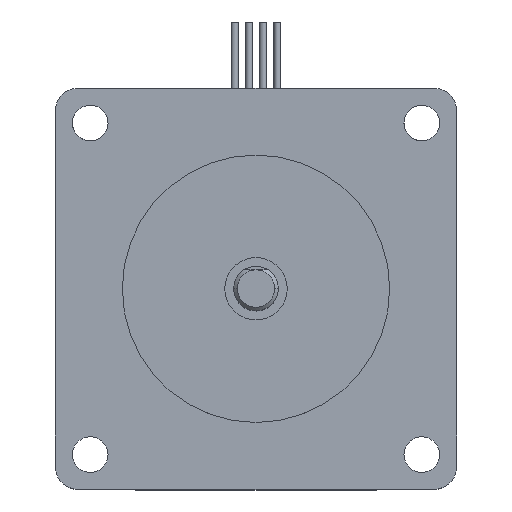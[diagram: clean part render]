
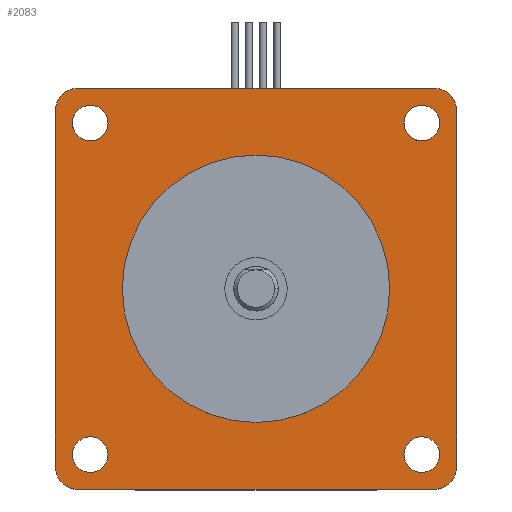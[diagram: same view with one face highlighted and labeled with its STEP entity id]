
A CAD part, top view. The second image highlights one B-rep face of the part: STEP entity #2083.
In plain terms, the highlighted planar face has unit normal (0, 0, 1).
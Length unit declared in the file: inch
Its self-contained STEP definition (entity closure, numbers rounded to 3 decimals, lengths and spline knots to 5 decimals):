
#99=CARTESIAN_POINT('',(-1.03,0.93,2.17));
#100=VERTEX_POINT('',#99);
#116=CARTESIAN_POINT('',(-0.83,0.93,2.17));
#117=VERTEX_POINT('',#116);
#124=CARTESIAN_POINT('',(-0.93,0.93,2.17));
#125=DIRECTION('',(0.0,0.0,-1.0));
#126=DIRECTION('',(-1.0,0.0,0.0));
#127=AXIS2_PLACEMENT_3D('',#124,#125,#126);
#128=CIRCLE('',#127,0.1);
#129=EDGE_CURVE('',#100,#117,#128,.T.);
#141=CARTESIAN_POINT('',(0.93,1.03,2.17));
#142=VERTEX_POINT('',#141);
#158=CARTESIAN_POINT('',(0.93,0.83,2.17));
#159=VERTEX_POINT('',#158);
#166=CARTESIAN_POINT('',(0.93,0.93,2.17));
#167=DIRECTION('',(0.0,0.0,-1.0));
#168=DIRECTION('',(0.0,1.0,0.0));
#169=AXIS2_PLACEMENT_3D('',#166,#167,#168);
#170=CIRCLE('',#169,0.1);
#171=EDGE_CURVE('',#142,#159,#170,.T.);
#183=CARTESIAN_POINT('',(-0.93,-1.03,2.17));
#184=VERTEX_POINT('',#183);
#200=CARTESIAN_POINT('',(-0.93,-0.83,2.17));
#201=VERTEX_POINT('',#200);
#208=CARTESIAN_POINT('',(-0.93,-0.93,2.17));
#209=DIRECTION('',(0.0,0.0,-1.0));
#210=DIRECTION('',(0.0,-1.0,0.0));
#211=AXIS2_PLACEMENT_3D('',#208,#209,#210);
#212=CIRCLE('',#211,0.1);
#213=EDGE_CURVE('',#184,#201,#212,.T.);
#225=CARTESIAN_POINT('',(1.03,-0.93,2.17));
#226=VERTEX_POINT('',#225);
#242=CARTESIAN_POINT('',(0.83,-0.93,2.17));
#243=VERTEX_POINT('',#242);
#250=CARTESIAN_POINT('',(0.93,-0.93,2.17));
#251=DIRECTION('',(0.0,0.0,-1.0));
#252=DIRECTION('',(1.0,0.0,0.0));
#253=AXIS2_PLACEMENT_3D('',#250,#251,#252);
#254=CIRCLE('',#253,0.1);
#255=EDGE_CURVE('',#226,#243,#254,.T.);
#265=CARTESIAN_POINT('',(-0.75,0.,2.17));
#266=VERTEX_POINT('',#265);
#275=CARTESIAN_POINT('',(0.75,0.,2.17));
#276=VERTEX_POINT('',#275);
#277=CARTESIAN_POINT('',(0.0,0.0,2.17));
#278=DIRECTION('',(0.0,0.0,-1.0));
#279=DIRECTION('',(-1.0,0.0,0.0));
#280=AXIS2_PLACEMENT_3D('',#277,#278,#279);
#281=CIRCLE('',#280,0.75);
#282=EDGE_CURVE('',#276,#266,#281,.T.);
#1358=CARTESIAN_POINT('',(1.0,-1.125,2.17));
#1359=VERTEX_POINT('',#1358);
#1366=CARTESIAN_POINT('',(-1.,-1.125,2.17));
#1367=VERTEX_POINT('',#1366);
#1368=CARTESIAN_POINT('',(-1.,-1.125,2.17));
#1369=DIRECTION('',(1.0,0.0,0.0));
#1370=VECTOR('',#1369,2.);
#1371=LINE('',#1368,#1370);
#1372=EDGE_CURVE('',#1367,#1359,#1371,.T.);
#1397=CARTESIAN_POINT('',(-1.125,-1.,2.17));
#1398=VERTEX_POINT('',#1397);
#1405=CARTESIAN_POINT('',(-1.125,1.0,2.17));
#1406=VERTEX_POINT('',#1405);
#1407=CARTESIAN_POINT('',(-1.125,1.0,2.17));
#1408=DIRECTION('',(0.0,-1.0,0.0));
#1409=VECTOR('',#1408,2.);
#1410=LINE('',#1407,#1409);
#1411=EDGE_CURVE('',#1406,#1398,#1410,.T.);
#1839=CARTESIAN_POINT('',(-1.,1.125,2.17));
#1840=VERTEX_POINT('',#1839);
#1841=CARTESIAN_POINT('',(-1.,1.0,2.17));
#1842=DIRECTION('',(0.0,0.0,1.0));
#1843=DIRECTION('',(0.0,1.0,0.0));
#1844=AXIS2_PLACEMENT_3D('',#1841,#1842,#1843);
#1845=CIRCLE('',#1844,0.125);
#1846=EDGE_CURVE('',#1840,#1406,#1845,.T.);
#1864=CARTESIAN_POINT('',(-1.,-1.,2.17));
#1865=DIRECTION('',(0.0,0.0,1.0));
#1866=DIRECTION('',(-1.0,0.0,0.0));
#1867=AXIS2_PLACEMENT_3D('',#1864,#1865,#1866);
#1868=CIRCLE('',#1867,0.125);
#1869=EDGE_CURVE('',#1398,#1367,#1868,.T.);
#1890=CARTESIAN_POINT('',(1.0,1.125,2.17));
#1891=VERTEX_POINT('',#1890);
#1892=CARTESIAN_POINT('',(1.0,1.125,2.17));
#1893=DIRECTION('',(-1.0,0.0,0.0));
#1894=VECTOR('',#1893,2.0);
#1895=LINE('',#1892,#1894);
#1896=EDGE_CURVE('',#1891,#1840,#1895,.T.);
#1930=CARTESIAN_POINT('',(1.125,-1.,2.17));
#1931=VERTEX_POINT('',#1930);
#1938=CARTESIAN_POINT('',(1.0,-1.,2.17));
#1939=DIRECTION('',(0.0,0.0,1.0));
#1940=DIRECTION('',(0.0,-1.0,0.0));
#1941=AXIS2_PLACEMENT_3D('',#1938,#1939,#1940);
#1942=CIRCLE('',#1941,0.125);
#1943=EDGE_CURVE('',#1359,#1931,#1942,.T.);
#1987=CARTESIAN_POINT('',(0.0,0.0,2.17));
#1988=DIRECTION('',(0.0,0.0,-1.0));
#1989=DIRECTION('',(-1.0,0.0,0.0));
#1990=AXIS2_PLACEMENT_3D('',#1987,#1988,#1989);
#1991=CIRCLE('',#1990,0.75);
#1992=EDGE_CURVE('',#266,#276,#1991,.T.);
#2011=CARTESIAN_POINT('',(0.0,0.0,2.17));
#2012=DIRECTION('',(0.0,0.0,1.0));
#2013=DIRECTION('',(1.0,0.0,0.0));
#2014=AXIS2_PLACEMENT_3D('',#2011,#2012,#2013);
#2015=PLANE('',#2014);
#2016=ORIENTED_EDGE('',*,*,#1846,.T.);
#2017=ORIENTED_EDGE('',*,*,#1411,.T.);
#2018=ORIENTED_EDGE('',*,*,#1869,.T.);
#2019=ORIENTED_EDGE('',*,*,#1372,.T.);
#2020=ORIENTED_EDGE('',*,*,#1943,.T.);
#2021=CARTESIAN_POINT('',(1.125,1.0,2.17));
#2022=VERTEX_POINT('',#2021);
#2023=CARTESIAN_POINT('',(1.125,-1.,2.17));
#2024=DIRECTION('',(0.0,1.0,0.0));
#2025=VECTOR('',#2024,2.);
#2026=LINE('',#2023,#2025);
#2027=EDGE_CURVE('',#1931,#2022,#2026,.T.);
#2028=ORIENTED_EDGE('',*,*,#2027,.T.);
#2029=CARTESIAN_POINT('',(1.0,1.0,2.17));
#2030=DIRECTION('',(0.0,0.0,1.0));
#2031=DIRECTION('',(1.0,0.0,0.0));
#2032=AXIS2_PLACEMENT_3D('',#2029,#2030,#2031);
#2033=CIRCLE('',#2032,0.125);
#2034=EDGE_CURVE('',#2022,#1891,#2033,.T.);
#2035=ORIENTED_EDGE('',*,*,#2034,.T.);
#2036=ORIENTED_EDGE('',*,*,#1896,.T.);
#2037=EDGE_LOOP('',(#2016,#2017,#2018,#2019,#2020,#2028,#2035,#2036));
#2038=FACE_OUTER_BOUND('',#2037,.T.);
#2039=CARTESIAN_POINT('',(-0.93,0.93,2.17));
#2040=DIRECTION('',(0.0,0.0,-1.0));
#2041=DIRECTION('',(-1.0,0.0,0.0));
#2042=AXIS2_PLACEMENT_3D('',#2039,#2040,#2041);
#2043=CIRCLE('',#2042,0.1);
#2044=EDGE_CURVE('',#117,#100,#2043,.T.);
#2045=ORIENTED_EDGE('',*,*,#2044,.T.);
#2046=ORIENTED_EDGE('',*,*,#129,.T.);
#2047=EDGE_LOOP('',(#2045,#2046));
#2048=FACE_BOUND('',#2047,.T.);
#2049=CARTESIAN_POINT('',(0.93,0.93,2.17));
#2050=DIRECTION('',(0.0,0.0,-1.0));
#2051=DIRECTION('',(0.0,1.0,0.0));
#2052=AXIS2_PLACEMENT_3D('',#2049,#2050,#2051);
#2053=CIRCLE('',#2052,0.1);
#2054=EDGE_CURVE('',#159,#142,#2053,.T.);
#2055=ORIENTED_EDGE('',*,*,#2054,.T.);
#2056=ORIENTED_EDGE('',*,*,#171,.T.);
#2057=EDGE_LOOP('',(#2055,#2056));
#2058=FACE_BOUND('',#2057,.T.);
#2059=CARTESIAN_POINT('',(-0.93,-0.93,2.17));
#2060=DIRECTION('',(0.0,0.0,-1.0));
#2061=DIRECTION('',(0.0,-1.0,0.0));
#2062=AXIS2_PLACEMENT_3D('',#2059,#2060,#2061);
#2063=CIRCLE('',#2062,0.1);
#2064=EDGE_CURVE('',#201,#184,#2063,.T.);
#2065=ORIENTED_EDGE('',*,*,#2064,.T.);
#2066=ORIENTED_EDGE('',*,*,#213,.T.);
#2067=EDGE_LOOP('',(#2065,#2066));
#2068=FACE_BOUND('',#2067,.T.);
#2069=CARTESIAN_POINT('',(0.93,-0.93,2.17));
#2070=DIRECTION('',(0.0,0.0,-1.0));
#2071=DIRECTION('',(1.0,0.0,0.0));
#2072=AXIS2_PLACEMENT_3D('',#2069,#2070,#2071);
#2073=CIRCLE('',#2072,0.1);
#2074=EDGE_CURVE('',#243,#226,#2073,.T.);
#2075=ORIENTED_EDGE('',*,*,#2074,.T.);
#2076=ORIENTED_EDGE('',*,*,#255,.T.);
#2077=EDGE_LOOP('',(#2075,#2076));
#2078=FACE_BOUND('',#2077,.T.);
#2079=ORIENTED_EDGE('',*,*,#282,.T.);
#2080=ORIENTED_EDGE('',*,*,#1992,.T.);
#2081=EDGE_LOOP('',(#2079,#2080));
#2082=FACE_BOUND('',#2081,.T.);
#2083=ADVANCED_FACE('',(#2038,#2048,#2058,#2068,#2078,#2082),#2015,.T.);
